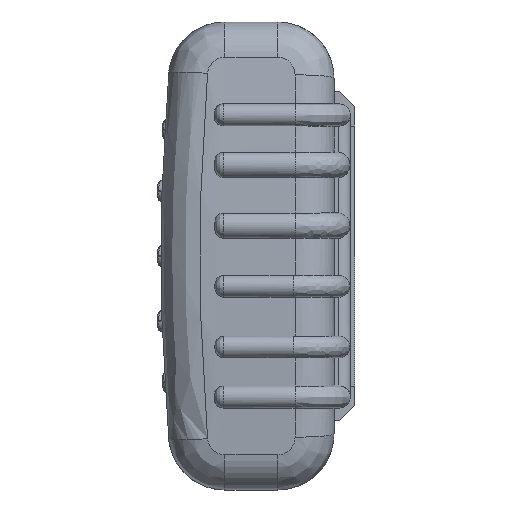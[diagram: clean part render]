
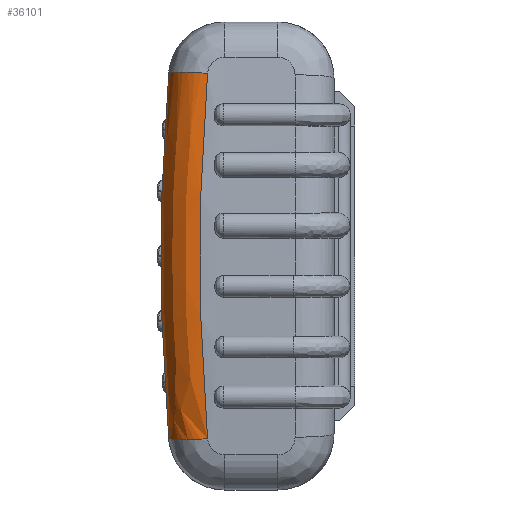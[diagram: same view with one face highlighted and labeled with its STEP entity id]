
A CAD part, left-side view. The second image highlights one B-rep face of the part: STEP entity #36101.
In plain terms, the highlighted free-form (B-spline) face has degree [3, 2] with [6, 3] control points.
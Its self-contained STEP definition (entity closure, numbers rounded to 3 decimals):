
#1164 = CARTESIAN_POINT ( 'NONE',  ( 88.476, 30.346, 28.258 ) ) ;
#1174 = CARTESIAN_POINT ( 'NONE',  ( 78.259, 38.156, -42.101 ) ) ;
#1360 = CARTESIAN_POINT ( 'NONE',  ( 87.154, 38.088, -42.898 ) ) ;
#1932 = AXIS2_PLACEMENT_3D ( 'NONE', #8273, #38568, #12586 ) ;
#2444 = DIRECTION ( 'NONE',  ( 0.09, 0.084, -0.992 ) ) ;
#2998 = EDGE_CURVE ( 'NONE', #47318, #6622, #37145, .T. ) ;
#4530 = CARTESIAN_POINT ( 'NONE',  ( 79.497, 39.343, 28.135 ) ) ;
#5525 = CARTESIAN_POINT ( 'NONE',  ( 79.489, 39.335, 28.227 ) ) ;
#6622 = VERTEX_POINT ( 'NONE', #20665 ) ;
#6849 = CARTESIAN_POINT ( 'NONE',  ( 89.121, 30.941, -14.107 ) ) ;
#7432 = EDGE_CURVE ( 'NONE', #47318, #39125, #24773, .T. ) ;
#7633 = CARTESIAN_POINT ( 'NONE',  ( 87.222, 29.188, -42.148 ) ) ;
#8273 = CARTESIAN_POINT ( 'NONE',  ( 78.259, 29.188, -41.339 ) ) ;
#9143 = AXIS2_PLACEMENT_3D ( 'NONE', #28372, #2444, #32705 ) ;
#9678 = CARTESIAN_POINT ( 'NONE',  ( 87.222, 29.188, 42.148 ) ) ;
#9864 = CARTESIAN_POINT ( 'NONE',  ( 89.121, 39.941, 14.469 ) ) ;
#11191 = CARTESIAN_POINT ( 'NONE',  ( 87.222, 29.188, -42.148 ) ) ;
#11914 = ORIENTED_EDGE ( 'NONE', *, *, #49910, .T. ) ;
#12586 = DIRECTION ( 'NONE',  ( 0.996, 0., -0.09 ) ) ;
#12805 = EDGE_LOOP ( 'NONE', ( #42658, #33509, #35116, #11914 ) ) ;
#13233 = CARTESIAN_POINT ( 'NONE',  ( 80.121, 39.941, 14.101 ) ) ;
#14227 = CARTESIAN_POINT ( 'NONE',  ( 89.121, 30.941, -14.212 ) ) ;
#15451 =( BOUNDED_SURFACE ( )  B_SPLINE_SURFACE ( 3, 2, ( 
 ( #9678, #48657, #27089 ),
 ( #1164, #31442, #5525 ),
 ( #35813, #9864, #40203 ),
 ( #14227, #44530, #18550 ),
 ( #48853, #22941, #53099 ),
 ( #27272, #1360, #31631 ) ),
 .UNSPECIFIED., .F., .F., .F. ) 
 B_SPLINE_SURFACE_WITH_KNOTS ( ( 4, 2, 4 ),
 ( 3, 3 ),
 ( 0.084, 0.125, 0.166 ),
 ( 0., 1. ),
 .UNSPECIFIED. ) 
 GEOMETRIC_REPRESENTATION_ITEM ( )  RATIONAL_B_SPLINE_SURFACE ( (
 ( 1., 0.71, 1.),
 ( 1., 0.708, 1.),
 ( 1., 0.707, 1.),
 ( 1., 0.707, 1.),
 ( 1., 0.708, 1.),
 ( 1., 0.71, 1.) ) ) 
 REPRESENTATION_ITEM ( '' )  SURFACE ( )  );
#15531 = CARTESIAN_POINT ( 'NONE',  ( 89.121, 30.941, 14.107 ) ) ;
#17577 = CARTESIAN_POINT ( 'NONE',  ( 79.497, 39.343, -28.135 ) ) ;
#18550 = CARTESIAN_POINT ( 'NONE',  ( 80.121, 39.941, -14.196 ) ) ;
#19887 = CARTESIAN_POINT ( 'NONE',  ( 87.222, 29.188, 42.148 ) ) ;
#20665 = CARTESIAN_POINT ( 'NONE',  ( 87.222, 29.188, 42.148 ) ) ;
#21342 = VERTEX_POINT ( 'NONE', #42772 ) ;
#22941 = CARTESIAN_POINT ( 'NONE',  ( 88.456, 39.314, -28.734 ) ) ;
#24773 = CIRCLE ( 'NONE', #1932, 9. ) ;
#24881 = EDGE_CURVE ( 'NONE', #21342, #39125, #29029, .T. ) ;
#27089 = CARTESIAN_POINT ( 'NONE',  ( 78.259, 38.156, 42.101 ) ) ;
#27272 = CARTESIAN_POINT ( 'NONE',  ( 87.222, 29.188, -42.148 ) ) ;
#28372 = CARTESIAN_POINT ( 'NONE',  ( 78.259, 29.188, 41.339 ) ) ;
#29029 = B_SPLINE_CURVE_WITH_KNOTS ( 'NONE', 3,
 ( #34799, #4530, #13233, #43547, #17577, #47852 ),
 .UNSPECIFIED., .F., .F.,
 ( 4, 2, 4 ),
 ( 0.012, 0.054, 0.096 ),
 .UNSPECIFIED. ) ;
#31442 = CARTESIAN_POINT ( 'NONE',  ( 88.456, 39.314, 28.734 ) ) ;
#31631 = CARTESIAN_POINT ( 'NONE',  ( 78.259, 38.156, -42.101 ) ) ;
#31668 = CIRCLE ( 'NONE', #9143, 9. ) ;
#32705 = DIRECTION ( 'NONE',  ( -0.996, 0., -0.09 ) ) ;
#33509 = ORIENTED_EDGE ( 'NONE', *, *, #7432, .T. ) ;
#34799 = CARTESIAN_POINT ( 'NONE',  ( 78.259, 38.156, 42.101 ) ) ;
#35116 = ORIENTED_EDGE ( 'NONE', *, *, #24881, .F. ) ;
#35813 = CARTESIAN_POINT ( 'NONE',  ( 89.121, 30.941, 14.212 ) ) ;
#36101 = ADVANCED_FACE ( 'NONE', ( #41025 ), #15451, .T. ) ;
#37145 = B_SPLINE_CURVE_WITH_KNOTS ( 'NONE', 3,
 ( #11191, #37154, #6849, #15531, #45833, #19887 ),
 .UNSPECIFIED., .F., .F.,
 ( 4, 2, 4 ),
 ( 0.004, 0.046, 0.088 ),
 .UNSPECIFIED. ) ;
#37154 = CARTESIAN_POINT ( 'NONE',  ( 88.486, 30.354, -28.156 ) ) ;
#38568 = DIRECTION ( 'NONE',  ( 0.09, 0.084, 0.992 ) ) ;
#39125 = VERTEX_POINT ( 'NONE', #1174 ) ;
#40203 = CARTESIAN_POINT ( 'NONE',  ( 80.121, 39.941, 14.196 ) ) ;
#41025 = FACE_OUTER_BOUND ( 'NONE', #12805, .T. ) ;
#42658 = ORIENTED_EDGE ( 'NONE', *, *, #2998, .F. ) ;
#42772 = CARTESIAN_POINT ( 'NONE',  ( 78.259, 38.156, 42.101 ) ) ;
#43547 = CARTESIAN_POINT ( 'NONE',  ( 80.121, 39.941, -14.101 ) ) ;
#44530 = CARTESIAN_POINT ( 'NONE',  ( 89.121, 39.941, -14.469 ) ) ;
#45833 = CARTESIAN_POINT ( 'NONE',  ( 88.486, 30.354, 28.156 ) ) ;
#47318 = VERTEX_POINT ( 'NONE', #7633 ) ;
#47852 = CARTESIAN_POINT ( 'NONE',  ( 78.259, 38.156, -42.101 ) ) ;
#48657 = CARTESIAN_POINT ( 'NONE',  ( 87.154, 38.088, 42.898 ) ) ;
#48853 = CARTESIAN_POINT ( 'NONE',  ( 88.476, 30.346, -28.258 ) ) ;
#49910 = EDGE_CURVE ( 'NONE', #21342, #6622, #31668, .T. ) ;
#53099 = CARTESIAN_POINT ( 'NONE',  ( 79.489, 39.335, -28.227 ) ) ;
